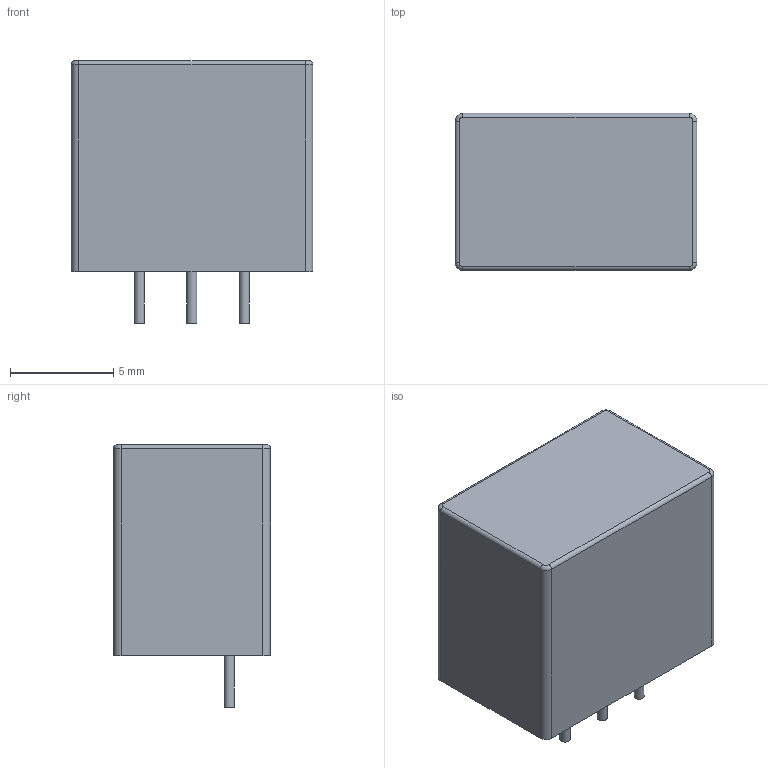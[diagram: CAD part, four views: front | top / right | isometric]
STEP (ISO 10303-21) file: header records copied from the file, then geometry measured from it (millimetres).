
FILE_DESCRIPTION(('FreeCAD Model'),'2;1');
FILE_NAME('Open CASCADE Shape Model','2026-10-21T20:55:35',('FreeCAD'),( 'FreeCAD'),'Open CASCADE STEP processor 7.9','FreeCAD','Unknown');
FILE_SCHEMA(('AUTOMOTIVE_DESIGN { 1 0 10303 214 1 1 1 1 }'));
Length unit declared in the file: millimetre
Products named in the file (1): Open CASCADE STEP translator 7.9 1
Bounding box: 11.7 x 7.6 x 12.7 mm (x, y, z)
Volume: 906.9 mm3; surface area: 573.3 mm2
Topology: 1 solids, 1 shells, 24 faces, 49 edges, 30 vertices
Faces by surface type: cylinder 11, plane 9, torus 4
Full cylindrical faces by diameter (mm): 0.5 x3
Entity records: 645 total; most frequent: DIRECTION 125, CARTESIAN_POINT 104, ORIENTED_EDGE 98, AXIS2_PLACEMENT_3D 51, EDGE_CURVE 49, VERTEX_POINT 30, FACE_BOUND 27, EDGE_LOOP 27
